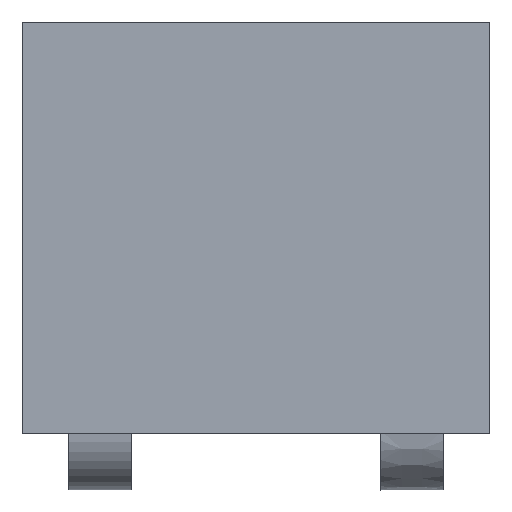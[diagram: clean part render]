
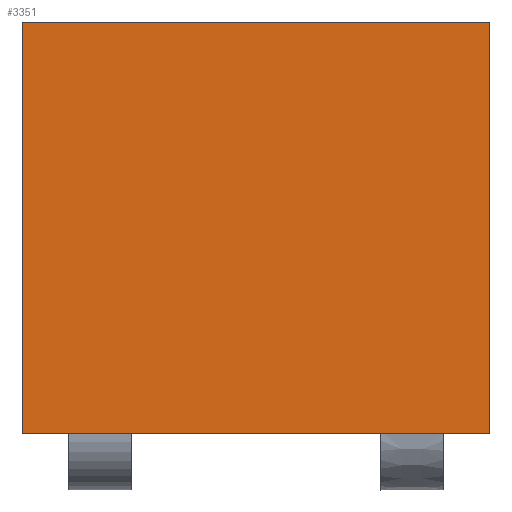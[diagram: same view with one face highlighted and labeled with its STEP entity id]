
A CAD part, front view. The second image highlights one B-rep face of the part: STEP entity #3351.
In plain terms, the highlighted planar face has unit normal (0, -1, 0).
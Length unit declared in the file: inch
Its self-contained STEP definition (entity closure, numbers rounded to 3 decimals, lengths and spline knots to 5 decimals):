
#17 = CARTESIAN_POINT ( 'NONE',  ( 15.71302, 3.2745, 15.07242 ) ) ;
#49 = CARTESIAN_POINT ( 'NONE',  ( 15.71302, 3.2745, 16.21415 ) ) ;
#256 = VECTOR ( 'NONE', #1604, 39.37008 ) ;
#288 = VERTEX_POINT ( 'NONE', #4572 ) ;
#365 = CARTESIAN_POINT ( 'NONE',  ( 15.71302, 3.2745, 15.07242 ) ) ;
#811 = ORIENTED_EDGE ( 'NONE', *, *, #2507, .T. ) ;
#812 = LINE ( 'NONE', #2033, #256 ) ;
#1160 = ORIENTED_EDGE ( 'NONE', *, *, #3285, .T. ) ;
#1176 = DIRECTION ( 'NONE',  ( 0., 0., -1. ) ) ;
#1555 = LINE ( 'NONE', #3629, #2824 ) ;
#1604 = DIRECTION ( 'NONE',  ( 1., 0., 0. ) ) ;
#1704 = CARTESIAN_POINT ( 'NONE',  ( 15.71302, 3.2745, 16.21415 ) ) ;
#1837 = VERTEX_POINT ( 'NONE', #17 ) ;
#1948 = VERTEX_POINT ( 'NONE', #4715 ) ;
#1999 = EDGE_CURVE ( 'NONE', #1948, #2654, #2929, .T. ) ;
#2033 = CARTESIAN_POINT ( 'NONE',  ( 15.71302, 3.2745, 15.07242 ) ) ;
#2380 = CARTESIAN_POINT ( 'NONE',  ( 17.01223, 3.2745, 16.21415 ) ) ;
#2440 = FACE_OUTER_BOUND ( 'NONE', #4957, .T. ) ;
#2507 = EDGE_CURVE ( 'NONE', #2654, #1837, #1555, .T. ) ;
#2654 = VERTEX_POINT ( 'NONE', #49 ) ;
#2719 = VECTOR ( 'NONE', #4073, 39.37008 ) ;
#2824 = VECTOR ( 'NONE', #1176, 39.37008 ) ;
#2929 = LINE ( 'NONE', #1704, #4435 ) ;
#3137 = DIRECTION ( 'NONE',  ( 0., 0., -1. ) ) ;
#3285 = EDGE_CURVE ( 'NONE', #288, #1948, #4803, .T. ) ;
#3320 = AXIS2_PLACEMENT_3D ( 'NONE', #365, #3493, #3137 ) ;
#3351 = ADVANCED_FACE ( 'NONE', ( #2440 ), #4086, .T. ) ;
#3428 = ORIENTED_EDGE ( 'NONE', *, *, #1999, .T. ) ;
#3493 = DIRECTION ( 'NONE',  ( 0., -1., 0. ) ) ;
#3529 = ORIENTED_EDGE ( 'NONE', *, *, #4018, .T. ) ;
#3629 = CARTESIAN_POINT ( 'NONE',  ( 15.71302, 3.2745, 16.21415 ) ) ;
#4018 = EDGE_CURVE ( 'NONE', #1837, #288, #812, .T. ) ;
#4073 = DIRECTION ( 'NONE',  ( 0., 0., 1. ) ) ;
#4086 = PLANE ( 'NONE',  #3320 ) ;
#4435 = VECTOR ( 'NONE', #4563, 39.37008 ) ;
#4563 = DIRECTION ( 'NONE',  ( -1., 0., 0. ) ) ;
#4572 = CARTESIAN_POINT ( 'NONE',  ( 17.01223, 3.2745, 15.07242 ) ) ;
#4715 = CARTESIAN_POINT ( 'NONE',  ( 17.01223, 3.2745, 16.21415 ) ) ;
#4803 = LINE ( 'NONE', #2380, #2719 ) ;
#4957 = EDGE_LOOP ( 'NONE', ( #811, #3529, #1160, #3428 ) ) ;
